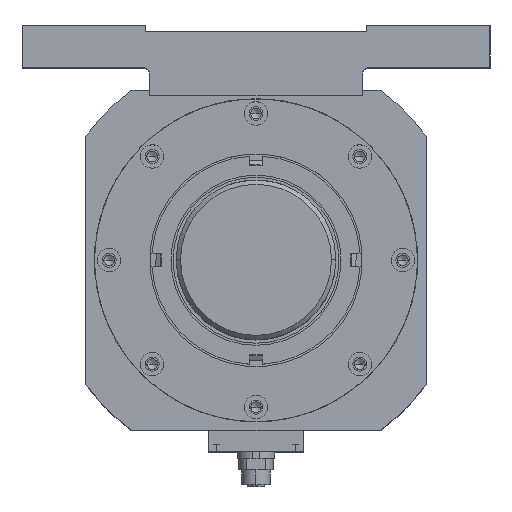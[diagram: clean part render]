
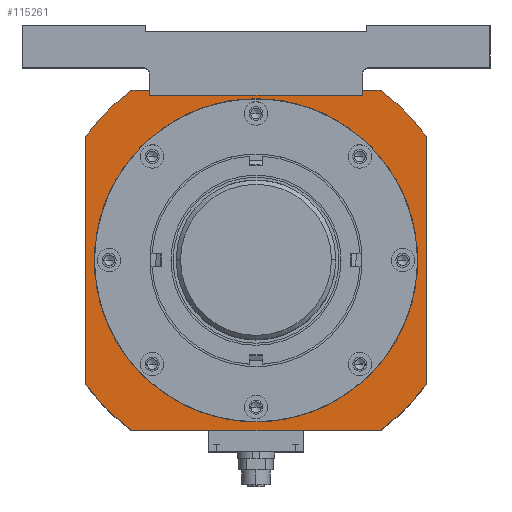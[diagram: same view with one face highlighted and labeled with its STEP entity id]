
A CAD part, top view. The second image highlights one B-rep face of the part: STEP entity #115261.
In plain terms, the highlighted planar face has unit normal (0, 0, 1) as drawn and (0, 0, -1) by its records, which use the part's own axes.
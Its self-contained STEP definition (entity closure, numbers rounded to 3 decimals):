
#720 = DIRECTION ( 'NONE',  ( -1., 0., 0. ) ) ;
#948 = CARTESIAN_POINT ( 'NONE',  ( 80., 58.318, -70.5 ) ) ;
#2356 = CIRCLE ( 'NONE', #18482, 76. ) ;
#3394 = CARTESIAN_POINT ( 'NONE',  ( 58.318, -80., -70.5 ) ) ;
#5839 = EDGE_CURVE ( 'NONE', #48247, #118459, #97736, .T. ) ;
#6327 = EDGE_CURVE ( 'NONE', #55237, #65554, #74355, .T. ) ;
#9364 = EDGE_CURVE ( 'NONE', #55237, #38133, #28410, .T. ) ;
#13939 = CIRCLE ( 'NONE', #49654, 99. ) ;
#14666 = CARTESIAN_POINT ( 'NONE',  ( 80., -58.318, -70.5 ) ) ;
#15684 = DIRECTION ( 'NONE',  ( -1., 0., 0. ) ) ;
#15831 = DIRECTION ( 'NONE',  ( 0., 1., 0. ) ) ;
#15901 = DIRECTION ( 'NONE',  ( 0., 0., 1. ) ) ;
#16093 = ORIENTED_EDGE ( 'NONE', *, *, #99406, .T. ) ;
#16256 = CARTESIAN_POINT ( 'NONE',  ( 76.101, -80., -70.5 ) ) ;
#18389 = DIRECTION ( 'NONE',  ( 0., 0., 1. ) ) ;
#18482 = AXIS2_PLACEMENT_3D ( 'NONE', #26987, #91683, #36373 ) ;
#19074 = VECTOR ( 'NONE', #111417, 1000. ) ;
#20108 = VERTEX_POINT ( 'NONE', #78838 ) ;
#24443 = ORIENTED_EDGE ( 'NONE', *, *, #33284, .F. ) ;
#26987 = CARTESIAN_POINT ( 'NONE',  ( 0., 0., -70.5 ) ) ;
#27599 = CARTESIAN_POINT ( 'NONE',  ( 76.101, -80., -70.5 ) ) ;
#28410 = LINE ( 'NONE', #76836, #50213 ) ;
#28741 = CARTESIAN_POINT ( 'NONE',  ( 76., 0., -70.5 ) ) ;
#28765 = ORIENTED_EDGE ( 'NONE', *, *, #9364, .T. ) ;
#29199 = ORIENTED_EDGE ( 'NONE', *, *, #108340, .F. ) ;
#29421 = AXIS2_PLACEMENT_3D ( 'NONE', #96197, #40923, #105428 ) ;
#30892 = ORIENTED_EDGE ( 'NONE', *, *, #46406, .T. ) ;
#32057 = FACE_BOUND ( 'NONE', #81013, .T. ) ;
#33284 = EDGE_CURVE ( 'NONE', #65554, #37528, #94207, .T. ) ;
#33589 = CARTESIAN_POINT ( 'NONE',  ( -80., 74.033, -70.5 ) ) ;
#36373 = DIRECTION ( 'NONE',  ( -1., 0., 0. ) ) ;
#37332 = CARTESIAN_POINT ( 'NONE',  ( 58.318, 80., -70.5 ) ) ;
#37528 = VERTEX_POINT ( 'NONE', #102737 ) ;
#38023 = AXIS2_PLACEMENT_3D ( 'NONE', #91970, #91740, #91721 ) ;
#38133 = VERTEX_POINT ( 'NONE', #14666 ) ;
#38971 = CIRCLE ( 'NONE', #29421, 99. ) ;
#39194 = ORIENTED_EDGE ( 'NONE', *, *, #5839, .T. ) ;
#39549 = ORIENTED_EDGE ( 'NONE', *, *, #75935, .T. ) ;
#40923 = DIRECTION ( 'NONE',  ( 0., 0., 1. ) ) ;
#42227 = VECTOR ( 'NONE', #720, 1000. ) ;
#42686 = DIRECTION ( 'NONE',  ( 0., 0., -1. ) ) ;
#42927 = DIRECTION ( 'NONE',  ( 0., 1., 0. ) ) ;
#44271 = VERTEX_POINT ( 'NONE', #118336 ) ;
#44410 = ORIENTED_EDGE ( 'NONE', *, *, #79385, .F. ) ;
#46406 = EDGE_CURVE ( 'NONE', #78836, #20108, #92214, .T. ) ;
#47665 = VERTEX_POINT ( 'NONE', #115795 ) ;
#48247 = VERTEX_POINT ( 'NONE', #72881 ) ;
#49654 = AXIS2_PLACEMENT_3D ( 'NONE', #71424, #15901, #80728 ) ;
#50213 = VECTOR ( 'NONE', #82919, 1000. ) ;
#53120 = DIRECTION ( 'NONE',  ( 0., 0., 1. ) ) ;
#55153 = CIRCLE ( 'NONE', #74341, 99. ) ;
#55237 = VERTEX_POINT ( 'NONE', #948 ) ;
#55266 = VECTOR ( 'NONE', #42927, 1000. ) ;
#55775 = CARTESIAN_POINT ( 'NONE',  ( -50., -77.5, -70.5 ) ) ;
#56425 = CARTESIAN_POINT ( 'NONE',  ( 0., 80., -70.5 ) ) ;
#58172 = LINE ( 'NONE', #33589, #55266 ) ;
#59580 = EDGE_CURVE ( 'NONE', #37528, #44271, #13939, .T. ) ;
#60328 = CARTESIAN_POINT ( 'NONE',  ( -50., -77.5, -70.5 ) ) ;
#60583 = AXIS2_PLACEMENT_3D ( 'NONE', #108348, #53120, #117236 ) ;
#60883 = ORIENTED_EDGE ( 'NONE', *, *, #65580, .T. ) ;
#65057 = DIRECTION ( 'NONE',  ( 0., -1., 0. ) ) ;
#65119 = CARTESIAN_POINT ( 'NONE',  ( 50., -77.5, -70.5 ) ) ;
#65554 = VERTEX_POINT ( 'NONE', #37332 ) ;
#65580 = EDGE_CURVE ( 'NONE', #75384, #85315, #92966, .T. ) ;
#65750 = ORIENTED_EDGE ( 'NONE', *, *, #79589, .F. ) ;
#66174 = CARTESIAN_POINT ( 'NONE',  ( -80., -58.318, -70.5 ) ) ;
#66413 = CARTESIAN_POINT ( 'NONE',  ( -58.318, -80., -70.5 ) ) ;
#69596 = CIRCLE ( 'NONE', #98980, 76. ) ;
#70365 = LINE ( 'NONE', #55775, #92022 ) ;
#70875 = PLANE ( 'NONE',  #60583 ) ;
#71424 = CARTESIAN_POINT ( 'NONE',  ( 0., 0., -70.5 ) ) ;
#72881 = CARTESIAN_POINT ( 'NONE',  ( -50., -80., -70.5 ) ) ;
#73914 = CARTESIAN_POINT ( 'NONE',  ( 0., 0., -70.5 ) ) ;
#74341 = AXIS2_PLACEMENT_3D ( 'NONE', #73914, #18389, #83211 ) ;
#74355 = CIRCLE ( 'NONE', #38023, 99. ) ;
#75384 = VERTEX_POINT ( 'NONE', #65119 ) ;
#75935 = EDGE_CURVE ( 'NONE', #20108, #75384, #110292, .T. ) ;
#76836 = CARTESIAN_POINT ( 'NONE',  ( 80., 74.033, -70.5 ) ) ;
#78836 = VERTEX_POINT ( 'NONE', #3394 ) ;
#78838 = CARTESIAN_POINT ( 'NONE',  ( 50., -80., -70.5 ) ) ;
#79385 = EDGE_CURVE ( 'NONE', #104106, #118459, #38971, .T. ) ;
#79589 = EDGE_CURVE ( 'NONE', #112450, #47665, #2356, .T. ) ;
#80728 = DIRECTION ( 'NONE',  ( -1., 0., 0. ) ) ;
#81013 = EDGE_LOOP ( 'NONE', ( #92489, #65750 ) ) ;
#82919 = DIRECTION ( 'NONE',  ( 0., -1., 0. ) ) ;
#83211 = DIRECTION ( 'NONE',  ( -1., 0., 0. ) ) ;
#85315 = VERTEX_POINT ( 'NONE', #60328 ) ;
#85922 = VECTOR ( 'NONE', #15831, 1000. ) ;
#90870 = EDGE_CURVE ( 'NONE', #47665, #112450, #69596, .T. ) ;
#91683 = DIRECTION ( 'NONE',  ( 0., 0., -1. ) ) ;
#91721 = DIRECTION ( 'NONE',  ( -1., 0., 0. ) ) ;
#91740 = DIRECTION ( 'NONE',  ( 0., 0., 1. ) ) ;
#91970 = CARTESIAN_POINT ( 'NONE',  ( 0., 0., -70.5 ) ) ;
#92022 = VECTOR ( 'NONE', #65057, 1000. ) ;
#92214 = LINE ( 'NONE', #27599, #95134 ) ;
#92489 = ORIENTED_EDGE ( 'NONE', *, *, #90870, .F. ) ;
#92966 = LINE ( 'NONE', #102269, #19074 ) ;
#94207 = LINE ( 'NONE', #56425, #42227 ) ;
#94849 = VECTOR ( 'NONE', #15684, 1000. ) ;
#95134 = VECTOR ( 'NONE', #111826, 1000. ) ;
#95321 = EDGE_LOOP ( 'NONE', ( #60883, #16093, #39194, #44410, #105591, #111823, #24443, #99879, #28765, #29199, #30892, #39549 ) ) ;
#96197 = CARTESIAN_POINT ( 'NONE',  ( 0., 0., -70.5 ) ) ;
#97736 = LINE ( 'NONE', #16256, #94849 ) ;
#97921 = CARTESIAN_POINT ( 'NONE',  ( 0., 0., -70.5 ) ) ;
#98809 = CARTESIAN_POINT ( 'NONE',  ( 50., -77.5, -70.5 ) ) ;
#98980 = AXIS2_PLACEMENT_3D ( 'NONE', #97921, #42686, #107178 ) ;
#99406 = EDGE_CURVE ( 'NONE', #85315, #48247, #70365, .T. ) ;
#99879 = ORIENTED_EDGE ( 'NONE', *, *, #6327, .F. ) ;
#102269 = CARTESIAN_POINT ( 'NONE',  ( -50., -77.5, -70.5 ) ) ;
#102737 = CARTESIAN_POINT ( 'NONE',  ( -58.318, 80., -70.5 ) ) ;
#102863 = FACE_OUTER_BOUND ( 'NONE', #95321, .T. ) ;
#104106 = VERTEX_POINT ( 'NONE', #66174 ) ;
#105428 = DIRECTION ( 'NONE',  ( -1., 0., 0. ) ) ;
#105591 = ORIENTED_EDGE ( 'NONE', *, *, #108119, .T. ) ;
#107178 = DIRECTION ( 'NONE',  ( -1., 0., 0. ) ) ;
#108119 = EDGE_CURVE ( 'NONE', #104106, #44271, #58172, .T. ) ;
#108340 = EDGE_CURVE ( 'NONE', #78836, #38133, #55153, .T. ) ;
#108348 = CARTESIAN_POINT ( 'NONE',  ( 0., 0., -70.5 ) ) ;
#110292 = LINE ( 'NONE', #98809, #85922 ) ;
#111417 = DIRECTION ( 'NONE',  ( -1., 0., 0. ) ) ;
#111823 = ORIENTED_EDGE ( 'NONE', *, *, #59580, .F. ) ;
#111826 = DIRECTION ( 'NONE',  ( -1., 0., 0. ) ) ;
#112450 = VERTEX_POINT ( 'NONE', #28741 ) ;
#115261 = ADVANCED_FACE ( 'NONE', ( #102863, #32057 ), #70875, .F. ) ;
#115795 = CARTESIAN_POINT ( 'NONE',  ( -76., 0., -70.5 ) ) ;
#117236 = DIRECTION ( 'NONE',  ( 1., 0., 0. ) ) ;
#118336 = CARTESIAN_POINT ( 'NONE',  ( -80., 58.318, -70.5 ) ) ;
#118459 = VERTEX_POINT ( 'NONE', #66413 ) ;
